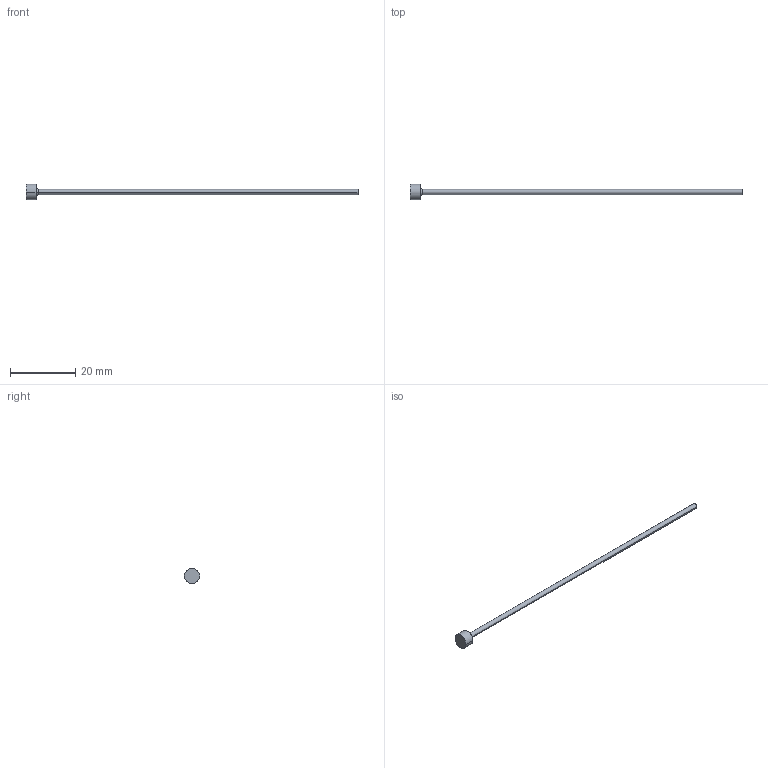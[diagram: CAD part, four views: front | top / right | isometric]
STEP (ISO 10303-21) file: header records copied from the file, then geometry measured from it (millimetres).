
FILE_DESCRIPTION (( 'STEP AP214' ), '1' );
FILE_NAME ('P5-4.STEP', '2020-03-11T15:36:39', ( '' ), ( '' ), 'SwSTEP 2.0', 'SolidWorks 2018', '' );
FILE_SCHEMA (( 'AUTOMOTIVE_DESIGN' ));
Length unit declared in the file: inch
Products named in the file (1): P5-4
Bounding box: 101.6 x 4.76 x 4.76 mm (x, y, z)
Volume: 250.1 mm3; surface area: 568.5 mm2
Topology: 1 solids, 1 shells, 13 faces, 24 edges, 14 vertices
Faces by surface type: cone 4, cylinder 4, plane 3, torus 2
Entity records: 366 total; most frequent: DIRECTION 68, CARTESIAN_POINT 52, ORIENTED_EDGE 48, AXIS2_PLACEMENT_3D 30, EDGE_CURVE 24, CIRCLE 16, VERTEX_POINT 14, EDGE_LOOP 14
